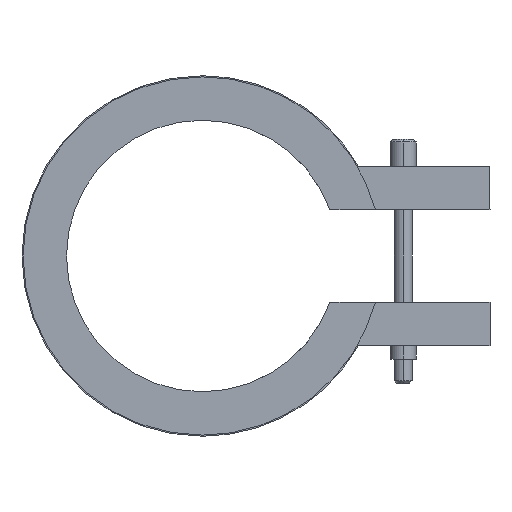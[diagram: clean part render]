
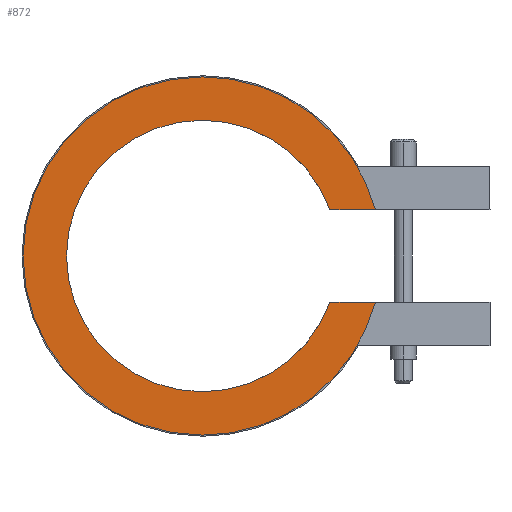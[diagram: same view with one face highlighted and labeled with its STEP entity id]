
A CAD part, left-side view. The second image highlights one B-rep face of the part: STEP entity #872.
In plain terms, the highlighted planar face has unit normal (-1, 0, 0).
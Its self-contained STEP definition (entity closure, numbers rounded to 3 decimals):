
#410=CARTESIAN_POINT('Vertex',(-15.,-11.755,-4.25)) ;
#413=CARTESIAN_POINT('Line Origine',(-15.,-13.849,-4.25)) ;
#417=CARTESIAN_POINT('Vertex',(-15.,-15.943,-4.25)) ;
#463=CARTESIAN_POINT('Vertex',(-15.,0.,-16.5)) ;
#466=CARTESIAN_POINT('Axis2P3D Location',(-15.,0.,0.)) ;
#487=CARTESIAN_POINT('Vertex',(-15.,0.,16.5)) ;
#490=CARTESIAN_POINT('Axis2P3D Location',(-15.,0.,0.)) ;
#502=CARTESIAN_POINT('Axis2P3D Location',(-15.,0.,0.)) ;
#506=CARTESIAN_POINT('Vertex',(-15.,-15.943,4.25)) ;
#526=CARTESIAN_POINT('Line Origine',(-15.,-13.849,4.25)) ;
#530=CARTESIAN_POINT('Vertex',(-15.,-11.755,4.25)) ;
#818=CARTESIAN_POINT('Axis2P3D Location',(-15.,0.,0.)) ;
#822=CARTESIAN_POINT('Vertex',(-15.,0.,-12.5)) ;
#845=CARTESIAN_POINT('Axis2P3D Location',(-15.,0.,0.)) ;
#850=CARTESIAN_POINT('Axis2P3D Location',(-15.,0.,0.)) ;
#854=CARTESIAN_POINT('Vertex',(-15.,0.,12.5)) ;
#857=CARTESIAN_POINT('Axis2P3D Location',(-15.,0.,0.)) ;
#414=DIRECTION('Vector Direction',(0.,1.,0.)) ;
#467=DIRECTION('Axis2P3D Direction',(1.,0.,-0.)) ;
#491=DIRECTION('Axis2P3D Direction',(1.,0.,-0.)) ;
#503=DIRECTION('Axis2P3D Direction',(1.,0.,-0.)) ;
#527=DIRECTION('Vector Direction',(0.,-1.,0.)) ;
#819=DIRECTION('Axis2P3D Direction',(1.,0.,-0.)) ;
#846=DIRECTION('Axis2P3D Direction',(1.,0.,0.)) ;
#847=DIRECTION('Axis2P3D XDirection',(0.,0.,-1.)) ;
#851=DIRECTION('Axis2P3D Direction',(1.,0.,0.)) ;
#858=DIRECTION('Axis2P3D Direction',(1.,0.,0.)) ;
#468=AXIS2_PLACEMENT_3D('Circle Axis2P3D',#466,#467,$) ;
#492=AXIS2_PLACEMENT_3D('Circle Axis2P3D',#490,#491,$) ;
#504=AXIS2_PLACEMENT_3D('Circle Axis2P3D',#502,#503,$) ;
#820=AXIS2_PLACEMENT_3D('Circle Axis2P3D',#818,#819,$) ;
#848=AXIS2_PLACEMENT_3D('Plane Axis2P3D',#845,#846,#847) ;
#852=AXIS2_PLACEMENT_3D('Circle Axis2P3D',#850,#851,$) ;
#859=AXIS2_PLACEMENT_3D('Circle Axis2P3D',#857,#858,$) ;
#863=ORIENTED_EDGE('',*,*,#419,.T.) ;
#864=ORIENTED_EDGE('',*,*,#824,.T.) ;
#865=ORIENTED_EDGE('',*,*,#856,.T.) ;
#866=ORIENTED_EDGE('',*,*,#861,.T.) ;
#867=ORIENTED_EDGE('',*,*,#532,.T.) ;
#868=ORIENTED_EDGE('',*,*,#508,.F.) ;
#869=ORIENTED_EDGE('',*,*,#494,.F.) ;
#870=ORIENTED_EDGE('',*,*,#470,.F.) ;
#415=VECTOR('Line Direction',#414,1.) ;
#528=VECTOR('Line Direction',#527,1.) ;
#872=ADVANCED_FACE('14025030',(#871),#849,.F.) ;
#469=CIRCLE('generated circle',#468,16.5) ;
#493=CIRCLE('generated circle',#492,16.5) ;
#505=CIRCLE('generated circle',#504,16.5) ;
#821=CIRCLE('generated circle',#820,12.5) ;
#853=CIRCLE('generated circle',#852,12.5) ;
#860=CIRCLE('generated circle',#859,12.5) ;
#419=EDGE_CURVE('',#418,#411,#416,.T.) ;
#470=EDGE_CURVE('',#418,#464,#469,.T.) ;
#494=EDGE_CURVE('',#464,#488,#493,.T.) ;
#508=EDGE_CURVE('',#488,#507,#505,.T.) ;
#532=EDGE_CURVE('',#531,#507,#529,.T.) ;
#824=EDGE_CURVE('',#411,#823,#821,.T.) ;
#856=EDGE_CURVE('',#823,#855,#853,.T.) ;
#861=EDGE_CURVE('',#855,#531,#860,.T.) ;
#862=EDGE_LOOP('',(#863,#864,#865,#866,#867,#868,#869,#870)) ;
#871=FACE_OUTER_BOUND('',#862,.T.) ;
#416=LINE('Line',#413,#415) ;
#529=LINE('Line',#526,#528) ;
#849=PLANE('Plane',#848) ;
#411=VERTEX_POINT('',#410) ;
#418=VERTEX_POINT('',#417) ;
#464=VERTEX_POINT('',#463) ;
#488=VERTEX_POINT('',#487) ;
#507=VERTEX_POINT('',#506) ;
#531=VERTEX_POINT('',#530) ;
#823=VERTEX_POINT('',#822) ;
#855=VERTEX_POINT('',#854) ;
